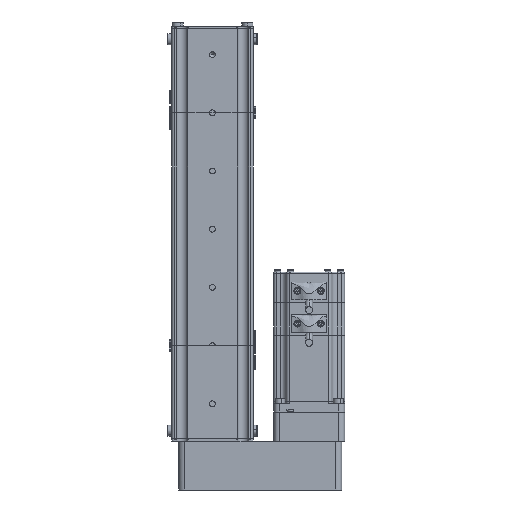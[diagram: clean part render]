
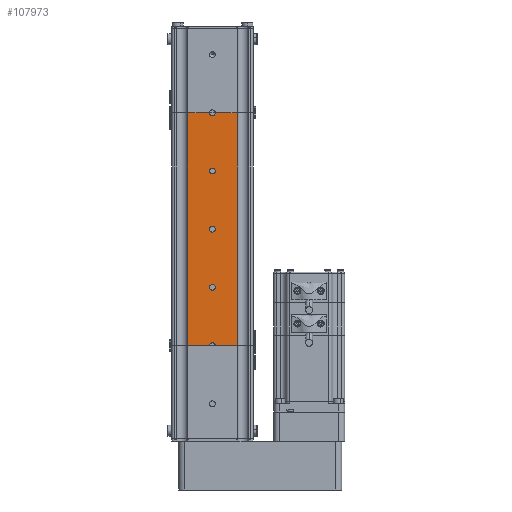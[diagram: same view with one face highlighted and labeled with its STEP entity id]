
A CAD part, front view. The second image highlights one B-rep face of the part: STEP entity #107973.
In plain terms, the highlighted planar face has unit normal (0, -1, 0).
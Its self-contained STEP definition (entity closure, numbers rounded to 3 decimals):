
#107404 = EDGE_CURVE ( 'NONE', #107413, #107420, #154114, .T. ) ;
#107410 = EDGE_LOOP ( 'NONE', ( #107696, #107960 ) ) ;
#107413 = VERTEX_POINT ( 'NONE', #154069 ) ;
#107420 = VERTEX_POINT ( 'NONE', #154136 ) ;
#107429 = VERTEX_POINT ( 'NONE', #154134 ) ;
#107464 = VERTEX_POINT ( 'NONE', #154208 ) ;
#107490 = VERTEX_POINT ( 'NONE', #154160 ) ;
#107492 = VERTEX_POINT ( 'NONE', #154210 ) ;
#107494 = VERTEX_POINT ( 'NONE', #154199 ) ;
#107500 = EDGE_CURVE ( 'NONE', #107429, #107494, #154195, .T. ) ;
#107525 = EDGE_CURVE ( 'NONE', #107464, #107869, #154183, .T. ) ;
#107640 = EDGE_LOOP ( 'NONE', ( #107695, #107694 ) ) ;
#107643 = ORIENTED_EDGE ( 'NONE', *, *, #107645, .T. ) ;
#107645 = EDGE_CURVE ( 'NONE', #107647, #107666, #154265, .T. ) ;
#107647 = VERTEX_POINT ( 'NONE', #154364 ) ;
#107649 = VERTEX_POINT ( 'NONE', #154365 ) ;
#107650 = ORIENTED_EDGE ( 'NONE', *, *, #107981, .F. ) ;
#107652 = EDGE_CURVE ( 'NONE', #107704, #107660, #154335, .T. ) ;
#107653 = VERTEX_POINT ( 'NONE', #154453 ) ;
#107660 = VERTEX_POINT ( 'NONE', #154435 ) ;
#107663 = EDGE_CURVE ( 'NONE', #107666, #107420, #154362, .T. ) ;
#107666 = VERTEX_POINT ( 'NONE', #154312 ) ;
#107688 = ORIENTED_EDGE ( 'NONE', *, *, #107845, .F. ) ;
#107691 = EDGE_CURVE ( 'NONE', #107494, #107429, #154350, .T. ) ;
#107694 = ORIENTED_EDGE ( 'NONE', *, *, #107500, .F. ) ;
#107695 = ORIENTED_EDGE ( 'NONE', *, *, #107691, .F. ) ;
#107696 = ORIENTED_EDGE ( 'NONE', *, *, #107699, .F. ) ;
#107697 = EDGE_CURVE ( 'NONE', #107490, #107492, #154367, .T. ) ;
#107698 = EDGE_LOOP ( 'NONE', ( #107705, #107970 ) ) ;
#107699 = EDGE_CURVE ( 'NONE', #107869, #107464, #154349, .T. ) ;
#107704 = VERTEX_POINT ( 'NONE', #154455 ) ;
#107705 = ORIENTED_EDGE ( 'NONE', *, *, #107697, .F. ) ;
#107752 = EDGE_CURVE ( 'NONE', #107492, #107490, #154416, .T. ) ;
#107845 = EDGE_CURVE ( 'NONE', #107647, #107653, #154307, .T. ) ;
#107869 = VERTEX_POINT ( 'NONE', #154294 ) ;
#107960 = ORIENTED_EDGE ( 'NONE', *, *, #107525, .F. ) ;
#107968 = ORIENTED_EDGE ( 'NONE', *, *, #107652, .F. ) ;
#107969 = EDGE_LOOP ( 'NONE', ( #107974, #107980, #107650, #107968, #107982, #107688, #107643, #107978 ) ) ;
#107970 = ORIENTED_EDGE ( 'NONE', *, *, #107752, .F. ) ;
#107973 = ADVANCED_FACE ( 'NONE', ( #154584, #154585, #154623, #154518 ), #154576, .F. ) ;
#107974 = ORIENTED_EDGE ( 'NONE', *, *, #107404, .F. ) ;
#107976 = EDGE_CURVE ( 'NONE', #107649, #107413, #154530, .T. ) ;
#107978 = ORIENTED_EDGE ( 'NONE', *, *, #107663, .T. ) ;
#107979 = EDGE_CURVE ( 'NONE', #107704, #107653, #154602, .T. ) ;
#107980 = ORIENTED_EDGE ( 'NONE', *, *, #107976, .F. ) ;
#107981 = EDGE_CURVE ( 'NONE', #107660, #107649, #154596, .T. ) ;
#107982 = ORIENTED_EDGE ( 'NONE', *, *, #107979, .T. ) ;
#154069 = CARTESIAN_POINT ( 'NONE',  ( 2.5, -34.5, 200. ) ) ;
#154111 = DIRECTION ( 'NONE',  ( 1., 0., 0. ) ) ;
#154112 = VECTOR ( 'NONE', #154111, 1000. ) ;
#154113 = CARTESIAN_POINT ( 'NONE',  ( -35., -34.5, 200. ) ) ;
#154114 = LINE ( 'NONE', #154113, #154112 ) ;
#154134 = CARTESIAN_POINT ( 'NONE',  ( -2.5, -34.5, 50. ) ) ;
#154136 = CARTESIAN_POINT ( 'NONE',  ( 21.25, -34.5, 200. ) ) ;
#154160 = CARTESIAN_POINT ( 'NONE',  ( 2.5, -34.5, 100. ) ) ;
#154180 = DIRECTION ( 'NONE',  ( 1., 0., 0. ) ) ;
#154181 = DIRECTION ( 'NONE',  ( 0., -1., 0. ) ) ;
#154182 = AXIS2_PLACEMENT_3D ( 'NONE', #154200, #154181, #154180 ) ;
#154183 = CIRCLE ( 'NONE', #154182, 2.5 ) ;
#154195 = CIRCLE ( 'NONE', #154222, 2.5 ) ;
#154199 = CARTESIAN_POINT ( 'NONE',  ( 2.5, -34.5, 50. ) ) ;
#154200 = CARTESIAN_POINT ( 'NONE',  ( 0., -34.5, 150. ) ) ;
#154208 = CARTESIAN_POINT ( 'NONE',  ( -2.5, -34.5, 150. ) ) ;
#154210 = CARTESIAN_POINT ( 'NONE',  ( -2.5, -34.5, 100. ) ) ;
#154222 = AXIS2_PLACEMENT_3D ( 'NONE', #154237, #154236, #154235 ) ;
#154235 = DIRECTION ( 'NONE',  ( 1., 0., 0. ) ) ;
#154236 = DIRECTION ( 'NONE',  ( 0., -1., 0. ) ) ;
#154237 = CARTESIAN_POINT ( 'NONE',  ( 0., -34.5, 50. ) ) ;
#154261 = DIRECTION ( 'NONE',  ( 1., 0., 0. ) ) ;
#154262 = VECTOR ( 'NONE', #154261, 1000. ) ;
#154264 = CARTESIAN_POINT ( 'NONE',  ( -35., -34.5, 0. ) ) ;
#154265 = LINE ( 'NONE', #154264, #154262 ) ;
#154289 = DIRECTION ( 'NONE',  ( 1., 0., 0. ) ) ;
#154290 = DIRECTION ( 'NONE',  ( 0., -1., 0. ) ) ;
#154291 = CARTESIAN_POINT ( 'NONE',  ( 0., -34.5, 100. ) ) ;
#154292 = AXIS2_PLACEMENT_3D ( 'NONE', #154291, #154290, #154289 ) ;
#154294 = CARTESIAN_POINT ( 'NONE',  ( 2.5, -34.5, 150. ) ) ;
#154301 = DIRECTION ( 'NONE',  ( 1., 0., 0. ) ) ;
#154302 = DIRECTION ( 'NONE',  ( 0., -1., 0. ) ) ;
#154303 = CARTESIAN_POINT ( 'NONE',  ( 0., -34.5, 0. ) ) ;
#154307 = CIRCLE ( 'NONE', #154331, 2.5 ) ;
#154312 = CARTESIAN_POINT ( 'NONE',  ( 21.25, -34.5, 0. ) ) ;
#154331 = AXIS2_PLACEMENT_3D ( 'NONE', #154303, #154302, #154301 ) ;
#154335 = LINE ( 'NONE', #154382, #154381 ) ;
#154349 = CIRCLE ( 'NONE', #154431, 2.5 ) ;
#154350 = CIRCLE ( 'NONE', #154388, 2.5 ) ;
#154361 = CARTESIAN_POINT ( 'NONE',  ( 21.25, -34.5, 0. ) ) ;
#154362 = LINE ( 'NONE', #154361, #154433 ) ;
#154363 = DIRECTION ( 'NONE',  ( 0., 0., 1. ) ) ;
#154364 = CARTESIAN_POINT ( 'NONE',  ( 2.5, -34.5, 0. ) ) ;
#154365 = CARTESIAN_POINT ( 'NONE',  ( -2.5, -34.5, 200. ) ) ;
#154367 = CIRCLE ( 'NONE', #154393, 2.5 ) ;
#154381 = VECTOR ( 'NONE', #154363, 1000. ) ;
#154382 = CARTESIAN_POINT ( 'NONE',  ( -21.25, -34.5, 0. ) ) ;
#154385 = DIRECTION ( 'NONE',  ( 1., 0., 0. ) ) ;
#154386 = DIRECTION ( 'NONE',  ( 0., -1., 0. ) ) ;
#154387 = CARTESIAN_POINT ( 'NONE',  ( 0., -34.5, 50. ) ) ;
#154388 = AXIS2_PLACEMENT_3D ( 'NONE', #154387, #154386, #154385 ) ;
#154390 = DIRECTION ( 'NONE',  ( 1., 0., 0. ) ) ;
#154391 = DIRECTION ( 'NONE',  ( 0., -1., 0. ) ) ;
#154392 = CARTESIAN_POINT ( 'NONE',  ( 0., -34.5, 100. ) ) ;
#154393 = AXIS2_PLACEMENT_3D ( 'NONE', #154392, #154391, #154390 ) ;
#154416 = CIRCLE ( 'NONE', #154292, 2.5 ) ;
#154429 = DIRECTION ( 'NONE',  ( 1., 0., 0. ) ) ;
#154430 = DIRECTION ( 'NONE',  ( 0., -1., 0. ) ) ;
#154431 = AXIS2_PLACEMENT_3D ( 'NONE', #154454, #154430, #154429 ) ;
#154432 = DIRECTION ( 'NONE',  ( 0., 0., 1. ) ) ;
#154433 = VECTOR ( 'NONE', #154432, 1000. ) ;
#154435 = CARTESIAN_POINT ( 'NONE',  ( -21.25, -34.5, 200. ) ) ;
#154453 = CARTESIAN_POINT ( 'NONE',  ( -2.5, -34.5, 0. ) ) ;
#154454 = CARTESIAN_POINT ( 'NONE',  ( 0., -34.5, 150. ) ) ;
#154455 = CARTESIAN_POINT ( 'NONE',  ( -21.25, -34.5, 0. ) ) ;
#154516 = CARTESIAN_POINT ( 'NONE',  ( 0., -34.5, 200. ) ) ;
#154518 = FACE_OUTER_BOUND ( 'NONE', #107969, .T. ) ;
#154530 = CIRCLE ( 'NONE', #154573, 2.5 ) ;
#154540 = DIRECTION ( 'NONE',  ( 1., 0., 0. ) ) ;
#154573 = AXIS2_PLACEMENT_3D ( 'NONE', #154516, #154600, #154599 ) ;
#154576 = PLANE ( 'NONE',  #154586 ) ;
#154584 = FACE_BOUND ( 'NONE', #107640, .T. ) ;
#154585 = FACE_BOUND ( 'NONE', #107698, .T. ) ;
#154586 = AXIS2_PLACEMENT_3D ( 'NONE', #154605, #154604, #154603 ) ;
#154589 = VECTOR ( 'NONE', #154540, 1000. ) ;
#154590 = CARTESIAN_POINT ( 'NONE',  ( -35., -34.5, 200. ) ) ;
#154594 = DIRECTION ( 'NONE',  ( 1., 0., 0. ) ) ;
#154595 = VECTOR ( 'NONE', #154594, 1000. ) ;
#154596 = LINE ( 'NONE', #154590, #154589 ) ;
#154599 = DIRECTION ( 'NONE',  ( 1., 0., 0. ) ) ;
#154600 = DIRECTION ( 'NONE',  ( 0., -1., 0. ) ) ;
#154601 = CARTESIAN_POINT ( 'NONE',  ( -35., -34.5, 0. ) ) ;
#154602 = LINE ( 'NONE', #154601, #154595 ) ;
#154603 = DIRECTION ( 'NONE',  ( -1., 0., 0. ) ) ;
#154604 = DIRECTION ( 'NONE',  ( 0., 1., 0. ) ) ;
#154605 = CARTESIAN_POINT ( 'NONE',  ( -35., -34.5, 200. ) ) ;
#154623 = FACE_BOUND ( 'NONE', #107410, .T. ) ;
